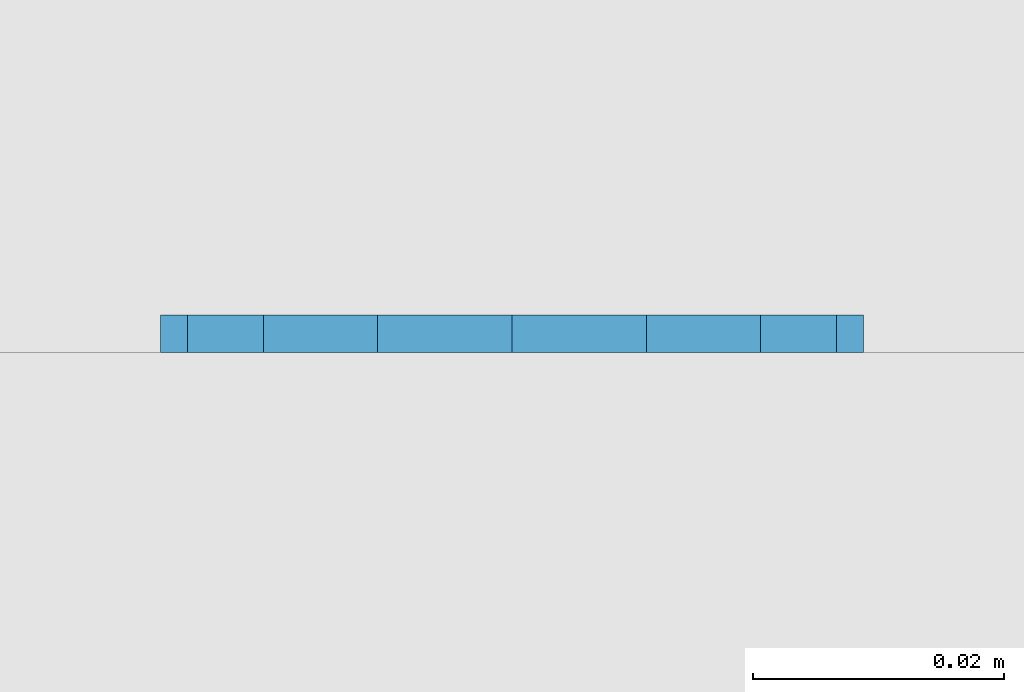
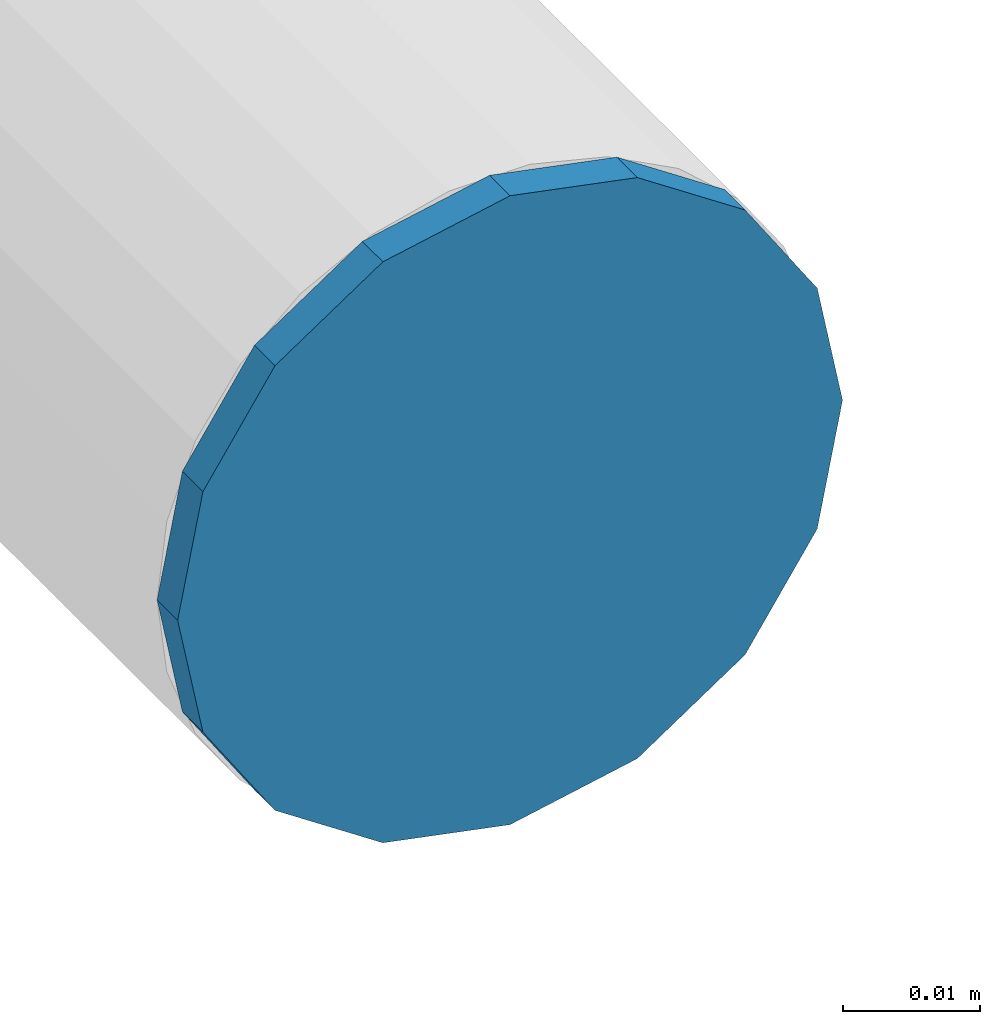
# One storey, part 47 of 230: 1 beam.
"""IFC4X3_ADD2 building model written with IfcOpenShell, lengths in millimetres."""

from ifc_helpers import new_model, si_unit, direction, frame, origin_with_axes, place, context, subcontext, project, spatial, indexed_curve, outline, extrude, material, element, save


model = new_model("IFC4X3_ADD2")

# Units and contexts
model_context = context("Model", 3, precision=1e-05, world=origin_with_axes(), true_north=direction((0.0, 1.0)))
body_context = subcontext(model_context, "Body", "Model", "MODEL_VIEW")
ifc_project = project(units=[si_unit("LENGTHUNIT", "METRE", prefix="MILLI"), si_unit("AREAUNIT", "SQUARE_METRE"), si_unit("VOLUMEUNIT", "CUBIC_METRE"), si_unit("PLANEANGLEUNIT", "RADIAN"), si_unit("TIMEUNIT", "SECOND"), si_unit("MASSUNIT", "GRAM")], contexts=[model_context])

# Site, building, storey
site_placement = place(None, origin_with_axes())
site = spatial("IfcSite", under=ifc_project, at=site_placement, Name="Site", CompositionType="ELEMENT")
building_placement = place(site_placement, origin_with_axes())
building = spatial("IfcBuilding", under=site, at=building_placement, Name="IFC Building Story")
storey_placement = place(building_placement, origin_with_axes())
storey = spatial("IfcBuildingStorey", under=building, at=storey_placement, Name="ETAGE 00 (0)", Elevation=0.0)

# Beam
ifc_material = material(Name="STEEL/Accessory 22919")
beam_placement = place(storey_placement, frame((48311.18800000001, 3.0, 1540.000000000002), z_axis=(0.0, -1.0, 0.0), x_axis=(-0.1950903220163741, 0.0, 0.9807852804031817)))
element("IfcBeam", 1, at=beam_placement, inside=storey, material=ifc_material, Name="TA4", ObjectType="D56", context=body_context, shape_type="SweptSolid", body=[
    extrude(outline(indexed_curve([(23.28114914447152, 15.55596652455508), (27.46198785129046, 5.462529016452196), (27.46198785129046, -5.462529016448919), (23.28114914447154, -15.55596652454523), (15.55596652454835, -23.28114914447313), (5.462529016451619, -27.46198785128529), (-5.462529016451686, -27.46198785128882), (-15.55596652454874, -23.28114914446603), (-23.2811491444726, -15.55596652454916), (-27.46198785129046, -5.462529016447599), (-27.46198785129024, 5.462529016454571), (-23.28114914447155, 15.55596652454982), (-15.55596652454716, 23.28114914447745), (-5.462529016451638, 27.46198785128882), (5.462529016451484, 27.46198785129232), (15.55596652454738, 23.28114914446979), (23.28114914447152, 15.55596652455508)])), origin_with_axes(), (0.0, 0.0, 1.0), 3.0),
])

save(model, "model.ifc")
